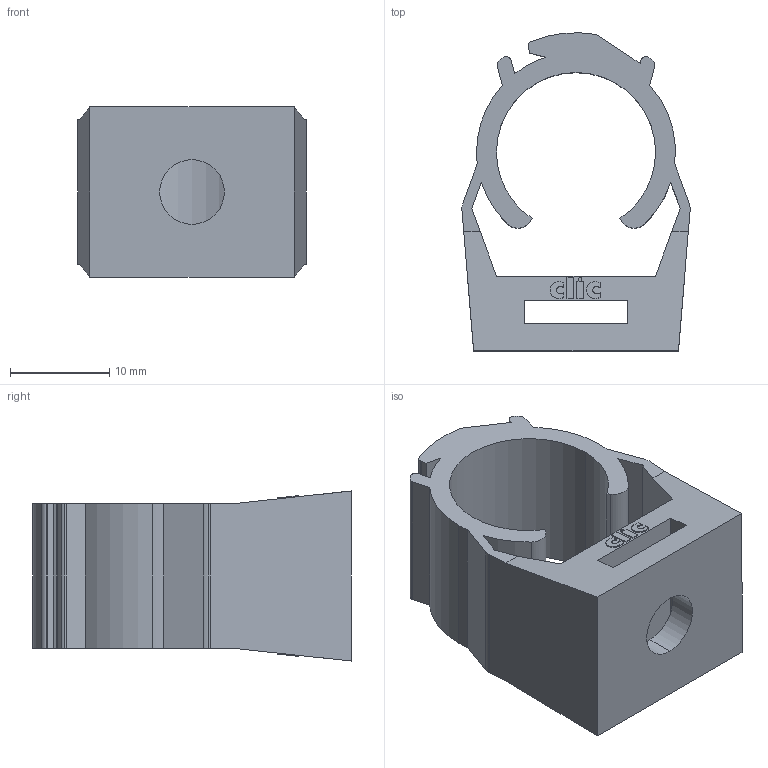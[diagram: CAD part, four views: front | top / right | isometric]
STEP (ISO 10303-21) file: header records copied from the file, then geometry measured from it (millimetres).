
FILE_DESCRIPTION (( 'STEP AP214' ), '1' );
FILE_NAME ('CLIC15.STEP', '2021-10-11T09:43:05', ( '' ), ( '' ), 'SwSTEP 2.0', 'SolidWorks 2021', '' );
FILE_SCHEMA (( 'AUTOMOTIVE_DESIGN' ));
Length unit declared in the file: millimetre
Products named in the file (1): CLIC15
Bounding box: 22.95 x 32 x 17.1 mm (x, y, z)
Volume: 4234 mm3; surface area: 3933 mm2
Topology: 1 solids, 1 shells, 118 faces, 324 edges, 216 vertices
Faces by surface type: plane 61, cylinder 29, bspline 28
Entity records: 3860 total; most frequent: CARTESIAN_POINT 1023, ORIENTED_EDGE 648, DIRECTION 508, EDGE_CURVE 324, VERTEX_POINT 216, LINE 210, VECTOR 210, AXIS2_PLACEMENT_3D 149
